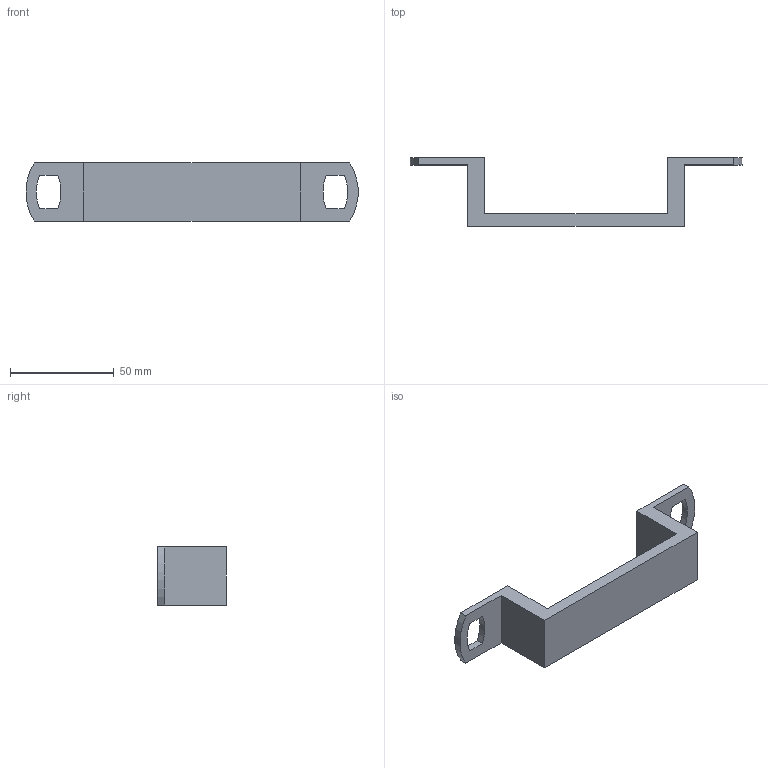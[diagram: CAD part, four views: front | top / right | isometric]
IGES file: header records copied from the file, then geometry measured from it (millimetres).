
Start section: Data from Parasolid IGES Translator 20.0.26, Copyright(c) 2006 Siemens P LM Software. All Rights Reserved.
Global section: file name: 9266419.igs; native system: By Siemens PLM Incorporated; preprocessor: XPlus GENERIC/IGES 20.0.26; author: Noname; organization: Noname; date: 20200630.115903; units: millimetre
Bounding box: 159.83 x 33 x 28 mm (x, y, z)
Surface area: 14484.9 mm2 (no closed solid volume)
Topology: 0 solids, 0 shells, 26 faces, 132 edges, 130 vertices
Faces by surface type: extrusion 18, revolution 8
